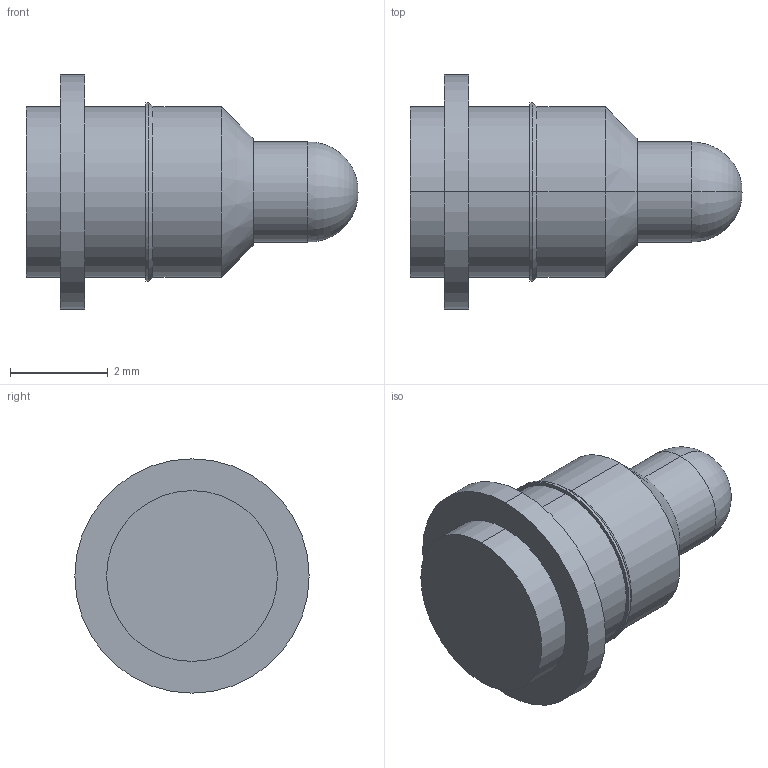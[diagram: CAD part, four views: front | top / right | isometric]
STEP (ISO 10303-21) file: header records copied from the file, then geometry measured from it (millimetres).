
FILE_DESCRIPTION (( 'STEP AP214' ), '1' );
FILE_NAME ('PD10J.STEP', '2021-07-22T13:13:05', ( '' ), ( '' ), 'SwSTEP 2.0', 'SolidWorks 2021', '' );
FILE_SCHEMA (( 'AUTOMOTIVE_DESIGN' ));
Length unit declared in the file: millimetre
Products named in the file (1): PD10J
Bounding box: 6.8 x 4.8 x 4.8 mm (x, y, z)
Volume: 53 mm3; surface area: 96.5 mm2
Topology: 1 solids, 1 shells, 23 faces, 46 edges, 27 vertices
Faces by surface type: cylinder 12, plane 5, cone 4, torus 2
Entity records: 624 total; most frequent: DIRECTION 120, CARTESIAN_POINT 95, ORIENTED_EDGE 88, AXIS2_PLACEMENT_3D 52, EDGE_CURVE 44, CIRCLE 28, VERTEX_POINT 27, EDGE_LOOP 27
